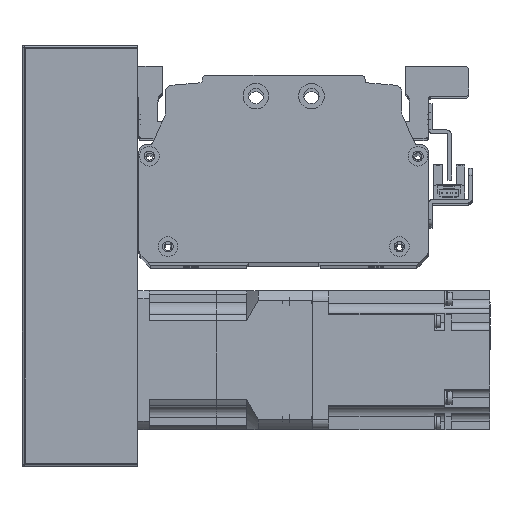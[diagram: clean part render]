
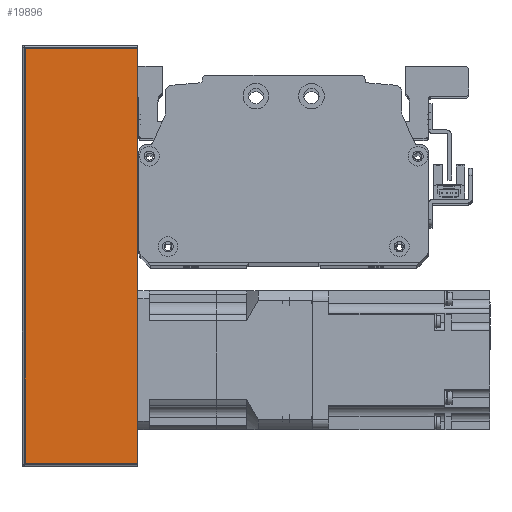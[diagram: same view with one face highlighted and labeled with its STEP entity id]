
A CAD part, top view. The second image highlights one B-rep face of the part: STEP entity #19896.
In plain terms, the highlighted planar face has unit normal (0, 0, 1) as drawn and (0, 1, 0) by its records, which use the part's own axes.
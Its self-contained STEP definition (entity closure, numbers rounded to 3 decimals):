
#609=PLANE('',#21872);
#1812=LINE('',#32769,#3436);
#1829=LINE('',#32823,#3453);
#1834=LINE('',#32847,#3458);
#1853=LINE('',#32910,#3477);
#3436=VECTOR('',#26491,10.);
#3453=VECTOR('',#26544,10.);
#3458=VECTOR('',#26581,10.);
#3477=VECTOR('',#26664,10.);
#5844=FACE_OUTER_BOUND('',#7296,.T.);
#7296=EDGE_LOOP('',(#17187,#17188,#17189,#17190));
#10145=VERTEX_POINT('',#32766);
#10146=VERTEX_POINT('',#32768);
#10164=VERTEX_POINT('',#32820);
#10165=VERTEX_POINT('',#32822);
#12588=EDGE_CURVE('',#10145,#10146,#1812,.T.);
#12616=EDGE_CURVE('',#10164,#10165,#1829,.T.);
#12630=EDGE_CURVE('',#10146,#10164,#1834,.T.);
#12661=EDGE_CURVE('',#10165,#10145,#1853,.T.);
#17187=ORIENTED_EDGE('',*,*,#12616,.F.);
#17188=ORIENTED_EDGE('',*,*,#12630,.F.);
#17189=ORIENTED_EDGE('',*,*,#12588,.F.);
#17190=ORIENTED_EDGE('',*,*,#12661,.F.);
#19896=ADVANCED_FACE('',(#5844),#609,.T.);
#21872=AXIS2_PLACEMENT_3D('',#32909,#26662,#26663);
#26491=DIRECTION('',(-1.,0.,0.));
#26544=DIRECTION('',(1.,0.,0.));
#26581=DIRECTION('',(0.,0.,-1.));
#26662=DIRECTION('center_axis',(0.,1.,0.));
#26663=DIRECTION('ref_axis',(-1.,0.,0.));
#26664=DIRECTION('',(0.,0.,1.));
#32766=CARTESIAN_POINT('',(90.,38.,25.));
#32768=CARTESIAN_POINT('',(-90.,38.,25.));
#32769=CARTESIAN_POINT('',(-91.,38.,25.));
#32820=CARTESIAN_POINT('',(-90.,38.,-24.));
#32822=CARTESIAN_POINT('',(90.,38.,-24.));
#32823=CARTESIAN_POINT('',(45.5,38.,-24.));
#32847=CARTESIAN_POINT('',(-90.,38.,0.));
#32909=CARTESIAN_POINT('Origin',(91.,38.,0.));
#32910=CARTESIAN_POINT('',(90.,38.,0.));
